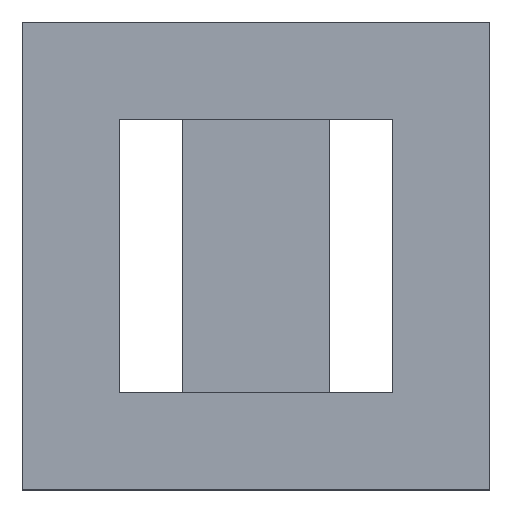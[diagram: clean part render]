
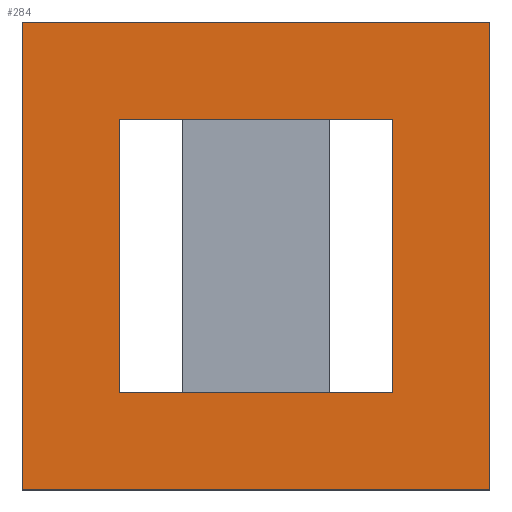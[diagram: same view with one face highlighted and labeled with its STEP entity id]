
A CAD part, top view. The second image highlights one B-rep face of the part: STEP entity #284.
In plain terms, the highlighted planar face has unit normal (0, 0, 1).
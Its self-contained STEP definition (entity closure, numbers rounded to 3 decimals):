
#22 = VERTEX_POINT('',#23);
#23 = CARTESIAN_POINT('',(9.25,-9.25,0.));
#32 = PLANE('',#33);
#33 = AXIS2_PLACEMENT_3D('',#34,#35,#36);
#34 = CARTESIAN_POINT('',(9.25,-9.25,0.));
#35 = DIRECTION('',(1.,0.,0.));
#36 = DIRECTION('',(0.,1.,0.));
#44 = PLANE('',#45);
#45 = AXIS2_PLACEMENT_3D('',#46,#47,#48);
#46 = CARTESIAN_POINT('',(-9.25,-9.25,0.));
#47 = DIRECTION('',(0.,-1.,0.));
#48 = DIRECTION('',(1.,0.,0.));
#85 = VERTEX_POINT('',#86);
#86 = CARTESIAN_POINT('',(9.25,9.25,0.));
#100 = PLANE('',#101);
#101 = AXIS2_PLACEMENT_3D('',#102,#103,#104);
#102 = CARTESIAN_POINT('',(9.25,9.25,0.));
#103 = DIRECTION('',(0.,1.,0.));
#104 = DIRECTION('',(-1.,0.,0.));
#112 = EDGE_CURVE('',#22,#85,#113,.T.);
#113 = SURFACE_CURVE('',#114,(#118,#125),.PCURVE_S1.);
#114 = LINE('',#115,#116);
#115 = CARTESIAN_POINT('',(9.25,-9.25,0.));
#116 = VECTOR('',#117,1.);
#117 = DIRECTION('',(0.,1.,0.));
#118 = PCURVE('',#32,#119);
#119 = DEFINITIONAL_REPRESENTATION('',(#120),#124);
#120 = LINE('',#121,#122);
#121 = CARTESIAN_POINT('',(0.,0.));
#122 = VECTOR('',#123,1.);
#123 = DIRECTION('',(1.,0.));
#124 = ( GEOMETRIC_REPRESENTATION_CONTEXT(2) 
PARAMETRIC_REPRESENTATION_CONTEXT() REPRESENTATION_CONTEXT('2D SPACE',''
  ) );
#125 = PCURVE('',#126,#131);
#126 = PLANE('',#127);
#127 = AXIS2_PLACEMENT_3D('',#128,#129,#130);
#128 = CARTESIAN_POINT('',(0.,0.,0.));
#129 = DIRECTION('',(0.,0.,1.));
#130 = DIRECTION('',(1.,0.,0.));
#131 = DEFINITIONAL_REPRESENTATION('',(#132),#136);
#132 = LINE('',#133,#134);
#133 = CARTESIAN_POINT('',(9.25,-9.25));
#134 = VECTOR('',#135,1.);
#135 = DIRECTION('',(0.,1.));
#136 = ( GEOMETRIC_REPRESENTATION_CONTEXT(2) 
PARAMETRIC_REPRESENTATION_CONTEXT() REPRESENTATION_CONTEXT('2D SPACE',''
  ) );
#142 = VERTEX_POINT('',#143);
#143 = CARTESIAN_POINT('',(-9.25,-9.25,0.));
#159 = PLANE('',#160);
#160 = AXIS2_PLACEMENT_3D('',#161,#162,#163);
#161 = CARTESIAN_POINT('',(-9.25,9.25,0.));
#162 = DIRECTION('',(-1.,0.,0.));
#163 = DIRECTION('',(0.,-1.,0.));
#193 = EDGE_CURVE('',#142,#22,#194,.T.);
#194 = SURFACE_CURVE('',#195,(#199,#206),.PCURVE_S1.);
#195 = LINE('',#196,#197);
#196 = CARTESIAN_POINT('',(-9.25,-9.25,0.));
#197 = VECTOR('',#198,1.);
#198 = DIRECTION('',(1.,0.,0.));
#199 = PCURVE('',#44,#200);
#200 = DEFINITIONAL_REPRESENTATION('',(#201),#205);
#201 = LINE('',#202,#203);
#202 = CARTESIAN_POINT('',(0.,0.));
#203 = VECTOR('',#204,1.);
#204 = DIRECTION('',(1.,0.));
#205 = ( GEOMETRIC_REPRESENTATION_CONTEXT(2) 
PARAMETRIC_REPRESENTATION_CONTEXT() REPRESENTATION_CONTEXT('2D SPACE',''
  ) );
#206 = PCURVE('',#126,#207);
#207 = DEFINITIONAL_REPRESENTATION('',(#208),#212);
#208 = LINE('',#209,#210);
#209 = CARTESIAN_POINT('',(-9.25,-9.25));
#210 = VECTOR('',#211,1.);
#211 = DIRECTION('',(1.,0.));
#212 = ( GEOMETRIC_REPRESENTATION_CONTEXT(2) 
PARAMETRIC_REPRESENTATION_CONTEXT() REPRESENTATION_CONTEXT('2D SPACE',''
  ) );
#242 = VERTEX_POINT('',#243);
#243 = CARTESIAN_POINT('',(-9.25,9.25,0.));
#264 = EDGE_CURVE('',#85,#242,#265,.T.);
#265 = SURFACE_CURVE('',#266,(#270,#277),.PCURVE_S1.);
#266 = LINE('',#267,#268);
#267 = CARTESIAN_POINT('',(9.25,9.25,0.));
#268 = VECTOR('',#269,1.);
#269 = DIRECTION('',(-1.,0.,0.));
#270 = PCURVE('',#100,#271);
#271 = DEFINITIONAL_REPRESENTATION('',(#272),#276);
#272 = LINE('',#273,#274);
#273 = CARTESIAN_POINT('',(0.,0.));
#274 = VECTOR('',#275,1.);
#275 = DIRECTION('',(1.,0.));
#276 = ( GEOMETRIC_REPRESENTATION_CONTEXT(2) 
PARAMETRIC_REPRESENTATION_CONTEXT() REPRESENTATION_CONTEXT('2D SPACE',''
  ) );
#277 = PCURVE('',#126,#278);
#278 = DEFINITIONAL_REPRESENTATION('',(#279),#283);
#279 = LINE('',#280,#281);
#280 = CARTESIAN_POINT('',(9.25,9.25));
#281 = VECTOR('',#282,1.);
#282 = DIRECTION('',(-1.,0.));
#283 = ( GEOMETRIC_REPRESENTATION_CONTEXT(2) 
PARAMETRIC_REPRESENTATION_CONTEXT() REPRESENTATION_CONTEXT('2D SPACE',''
  ) );
#284 = ADVANCED_FACE('',(#285,#311),#126,.T.);
#285 = FACE_BOUND('',#286,.T.);
#286 = EDGE_LOOP('',(#287,#288,#289,#310));
#287 = ORIENTED_EDGE('',*,*,#112,.T.);
#288 = ORIENTED_EDGE('',*,*,#264,.T.);
#289 = ORIENTED_EDGE('',*,*,#290,.T.);
#290 = EDGE_CURVE('',#242,#142,#291,.T.);
#291 = SURFACE_CURVE('',#292,(#296,#303),.PCURVE_S1.);
#292 = LINE('',#293,#294);
#293 = CARTESIAN_POINT('',(-9.25,9.25,0.));
#294 = VECTOR('',#295,1.);
#295 = DIRECTION('',(0.,-1.,0.));
#296 = PCURVE('',#126,#297);
#297 = DEFINITIONAL_REPRESENTATION('',(#298),#302);
#298 = LINE('',#299,#300);
#299 = CARTESIAN_POINT('',(-9.25,9.25));
#300 = VECTOR('',#301,1.);
#301 = DIRECTION('',(0.,-1.));
#302 = ( GEOMETRIC_REPRESENTATION_CONTEXT(2) 
PARAMETRIC_REPRESENTATION_CONTEXT() REPRESENTATION_CONTEXT('2D SPACE',''
  ) );
#303 = PCURVE('',#159,#304);
#304 = DEFINITIONAL_REPRESENTATION('',(#305),#309);
#305 = LINE('',#306,#307);
#306 = CARTESIAN_POINT('',(0.,0.));
#307 = VECTOR('',#308,1.);
#308 = DIRECTION('',(1.,0.));
#309 = ( GEOMETRIC_REPRESENTATION_CONTEXT(2) 
PARAMETRIC_REPRESENTATION_CONTEXT() REPRESENTATION_CONTEXT('2D SPACE',''
  ) );
#310 = ORIENTED_EDGE('',*,*,#193,.T.);
#311 = FACE_BOUND('',#312,.T.);
#312 = EDGE_LOOP('',(#313,#343,#371,#399));
#313 = ORIENTED_EDGE('',*,*,#314,.T.);
#314 = EDGE_CURVE('',#315,#317,#319,.T.);
#315 = VERTEX_POINT('',#316);
#316 = CARTESIAN_POINT('',(5.4,-5.4,0.));
#317 = VERTEX_POINT('',#318);
#318 = CARTESIAN_POINT('',(-5.4,-5.4,0.));
#319 = SURFACE_CURVE('',#320,(#324,#331),.PCURVE_S1.);
#320 = LINE('',#321,#322);
#321 = CARTESIAN_POINT('',(5.4,-5.4,0.));
#322 = VECTOR('',#323,1.);
#323 = DIRECTION('',(-1.,0.,0.));
#324 = PCURVE('',#126,#325);
#325 = DEFINITIONAL_REPRESENTATION('',(#326),#330);
#326 = LINE('',#327,#328);
#327 = CARTESIAN_POINT('',(5.4,-5.4));
#328 = VECTOR('',#329,1.);
#329 = DIRECTION('',(-1.,0.));
#330 = ( GEOMETRIC_REPRESENTATION_CONTEXT(2) 
PARAMETRIC_REPRESENTATION_CONTEXT() REPRESENTATION_CONTEXT('2D SPACE',''
  ) );
#331 = PCURVE('',#332,#337);
#332 = PLANE('',#333);
#333 = AXIS2_PLACEMENT_3D('',#334,#335,#336);
#334 = CARTESIAN_POINT('',(5.4,-5.4,0.));
#335 = DIRECTION('',(0.,1.,0.));
#336 = DIRECTION('',(-1.,0.,0.));
#337 = DEFINITIONAL_REPRESENTATION('',(#338),#342);
#338 = LINE('',#339,#340);
#339 = CARTESIAN_POINT('',(0.,0.));
#340 = VECTOR('',#341,1.);
#341 = DIRECTION('',(1.,0.));
#342 = ( GEOMETRIC_REPRESENTATION_CONTEXT(2) 
PARAMETRIC_REPRESENTATION_CONTEXT() REPRESENTATION_CONTEXT('2D SPACE',''
  ) );
#343 = ORIENTED_EDGE('',*,*,#344,.T.);
#344 = EDGE_CURVE('',#317,#345,#347,.T.);
#345 = VERTEX_POINT('',#346);
#346 = CARTESIAN_POINT('',(-5.4,5.4,0.));
#347 = SURFACE_CURVE('',#348,(#352,#359),.PCURVE_S1.);
#348 = LINE('',#349,#350);
#349 = CARTESIAN_POINT('',(-5.4,-5.4,0.));
#350 = VECTOR('',#351,1.);
#351 = DIRECTION('',(0.,1.,0.));
#352 = PCURVE('',#126,#353);
#353 = DEFINITIONAL_REPRESENTATION('',(#354),#358);
#354 = LINE('',#355,#356);
#355 = CARTESIAN_POINT('',(-5.4,-5.4));
#356 = VECTOR('',#357,1.);
#357 = DIRECTION('',(0.,1.));
#358 = ( GEOMETRIC_REPRESENTATION_CONTEXT(2) 
PARAMETRIC_REPRESENTATION_CONTEXT() REPRESENTATION_CONTEXT('2D SPACE',''
  ) );
#359 = PCURVE('',#360,#365);
#360 = PLANE('',#361);
#361 = AXIS2_PLACEMENT_3D('',#362,#363,#364);
#362 = CARTESIAN_POINT('',(-5.4,-5.4,0.));
#363 = DIRECTION('',(1.,0.,0.));
#364 = DIRECTION('',(0.,1.,0.));
#365 = DEFINITIONAL_REPRESENTATION('',(#366),#370);
#366 = LINE('',#367,#368);
#367 = CARTESIAN_POINT('',(0.,0.));
#368 = VECTOR('',#369,1.);
#369 = DIRECTION('',(1.,0.));
#370 = ( GEOMETRIC_REPRESENTATION_CONTEXT(2) 
PARAMETRIC_REPRESENTATION_CONTEXT() REPRESENTATION_CONTEXT('2D SPACE',''
  ) );
#371 = ORIENTED_EDGE('',*,*,#372,.T.);
#372 = EDGE_CURVE('',#345,#373,#375,.T.);
#373 = VERTEX_POINT('',#374);
#374 = CARTESIAN_POINT('',(5.4,5.4,0.));
#375 = SURFACE_CURVE('',#376,(#380,#387),.PCURVE_S1.);
#376 = LINE('',#377,#378);
#377 = CARTESIAN_POINT('',(-5.4,5.4,0.));
#378 = VECTOR('',#379,1.);
#379 = DIRECTION('',(1.,0.,0.));
#380 = PCURVE('',#126,#381);
#381 = DEFINITIONAL_REPRESENTATION('',(#382),#386);
#382 = LINE('',#383,#384);
#383 = CARTESIAN_POINT('',(-5.4,5.4));
#384 = VECTOR('',#385,1.);
#385 = DIRECTION('',(1.,0.));
#386 = ( GEOMETRIC_REPRESENTATION_CONTEXT(2) 
PARAMETRIC_REPRESENTATION_CONTEXT() REPRESENTATION_CONTEXT('2D SPACE',''
  ) );
#387 = PCURVE('',#388,#393);
#388 = PLANE('',#389);
#389 = AXIS2_PLACEMENT_3D('',#390,#391,#392);
#390 = CARTESIAN_POINT('',(-5.4,5.4,0.));
#391 = DIRECTION('',(0.,-1.,0.));
#392 = DIRECTION('',(1.,0.,0.));
#393 = DEFINITIONAL_REPRESENTATION('',(#394),#398);
#394 = LINE('',#395,#396);
#395 = CARTESIAN_POINT('',(0.,0.));
#396 = VECTOR('',#397,1.);
#397 = DIRECTION('',(1.,0.));
#398 = ( GEOMETRIC_REPRESENTATION_CONTEXT(2) 
PARAMETRIC_REPRESENTATION_CONTEXT() REPRESENTATION_CONTEXT('2D SPACE',''
  ) );
#399 = ORIENTED_EDGE('',*,*,#400,.T.);
#400 = EDGE_CURVE('',#373,#315,#401,.T.);
#401 = SURFACE_CURVE('',#402,(#406,#413),.PCURVE_S1.);
#402 = LINE('',#403,#404);
#403 = CARTESIAN_POINT('',(5.4,5.4,0.));
#404 = VECTOR('',#405,1.);
#405 = DIRECTION('',(0.,-1.,0.));
#406 = PCURVE('',#126,#407);
#407 = DEFINITIONAL_REPRESENTATION('',(#408),#412);
#408 = LINE('',#409,#410);
#409 = CARTESIAN_POINT('',(5.4,5.4));
#410 = VECTOR('',#411,1.);
#411 = DIRECTION('',(0.,-1.));
#412 = ( GEOMETRIC_REPRESENTATION_CONTEXT(2) 
PARAMETRIC_REPRESENTATION_CONTEXT() REPRESENTATION_CONTEXT('2D SPACE',''
  ) );
#413 = PCURVE('',#414,#419);
#414 = PLANE('',#415);
#415 = AXIS2_PLACEMENT_3D('',#416,#417,#418);
#416 = CARTESIAN_POINT('',(5.4,5.4,0.));
#417 = DIRECTION('',(-1.,0.,0.));
#418 = DIRECTION('',(0.,-1.,0.));
#419 = DEFINITIONAL_REPRESENTATION('',(#420),#424);
#420 = LINE('',#421,#422);
#421 = CARTESIAN_POINT('',(0.,0.));
#422 = VECTOR('',#423,1.);
#423 = DIRECTION('',(1.,0.));
#424 = ( GEOMETRIC_REPRESENTATION_CONTEXT(2) 
PARAMETRIC_REPRESENTATION_CONTEXT() REPRESENTATION_CONTEXT('2D SPACE',''
  ) );
